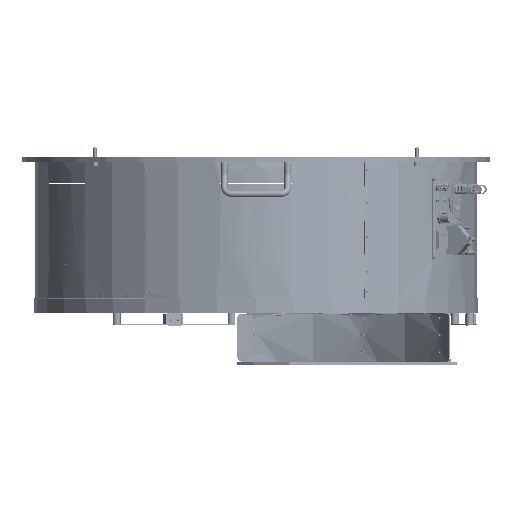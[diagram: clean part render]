
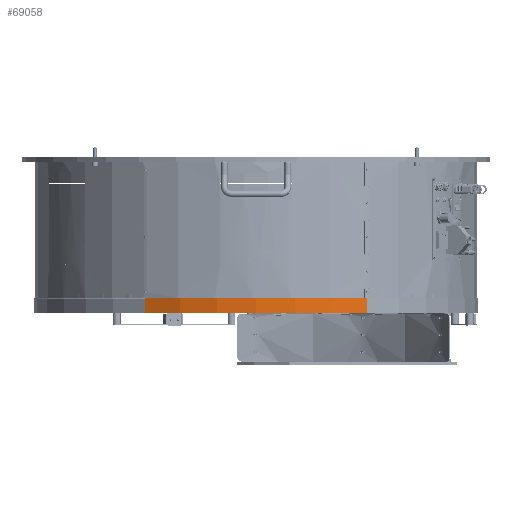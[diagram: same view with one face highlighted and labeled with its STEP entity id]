
A CAD part, front view. The second image highlights one B-rep face of the part: STEP entity #69058.
In plain terms, the highlighted cylindrical face has radius 422 mm (diameter 844 mm), a partial arc.
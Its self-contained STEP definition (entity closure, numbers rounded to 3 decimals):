
#3084 = CARTESIAN_POINT ( 'NONE',  ( 0., 0., 29. ) ) ;
#30343 = DIRECTION ( 'NONE',  ( 0., 0., 1. ) ) ;
#52357 = CARTESIAN_POINT ( 'NONE',  ( -422., 0., 28. ) ) ;
#69058 = ADVANCED_FACE ( 'NONE', ( #81543 ), #258463, .T. ) ;
#70432 = LINE ( 'NONE', #464868, #341210 ) ;
#81543 = FACE_OUTER_BOUND ( 'NONE', #379533, .T. ) ;
#84815 = CARTESIAN_POINT ( 'NONE',  ( -422., 0., 0. ) ) ;
#108032 = CIRCLE ( 'NONE', #163488, 422. ) ;
#126026 = DIRECTION ( 'NONE',  ( 0., 0., -1. ) ) ;
#136465 = DIRECTION ( 'NONE',  ( 0., 0., -1. ) ) ;
#158656 = AXIS2_PLACEMENT_3D ( 'NONE', #204372, #30343, #247934 ) ;
#163488 = AXIS2_PLACEMENT_3D ( 'NONE', #384219, #126026, #517600 ) ;
#204372 = CARTESIAN_POINT ( 'NONE',  ( 0., 0., 0. ) ) ;
#245097 = EDGE_CURVE ( 'NONE', #446553, #297885, #297178, .T. ) ;
#247934 = DIRECTION ( 'NONE',  ( 1., 0., 0. ) ) ;
#253124 = EDGE_CURVE ( 'NONE', #435020, #325055, #70432, .T. ) ;
#258463 = CYLINDRICAL_SURFACE ( 'NONE', #500543, 422. ) ;
#262202 = DIRECTION ( 'NONE',  ( 0., 0., -1. ) ) ;
#282129 = VECTOR ( 'NONE', #262202, 1000. ) ;
#297178 = LINE ( 'NONE', #569664, #282129 ) ;
#297885 = VERTEX_POINT ( 'NONE', #84815 ) ;
#322000 = DIRECTION ( 'NONE',  ( -1., 0., 0. ) ) ;
#325055 = VERTEX_POINT ( 'NONE', #554878 ) ;
#332387 = ORIENTED_EDGE ( 'NONE', *, *, #245097, .T. ) ;
#341210 = VECTOR ( 'NONE', #549041, 1000. ) ;
#345740 = ORIENTED_EDGE ( 'NONE', *, *, #253124, .F. ) ;
#354849 = CARTESIAN_POINT ( 'NONE',  ( -211., -365.463, 28. ) ) ;
#365240 = ORIENTED_EDGE ( 'NONE', *, *, #500356, .T. ) ;
#379533 = EDGE_LOOP ( 'NONE', ( #345740, #419181, #332387, #365240 ) ) ;
#384219 = CARTESIAN_POINT ( 'NONE',  ( 0., 0., 28. ) ) ;
#419181 = ORIENTED_EDGE ( 'NONE', *, *, #511636, .T. ) ;
#435020 = VERTEX_POINT ( 'NONE', #354849 ) ;
#446553 = VERTEX_POINT ( 'NONE', #52357 ) ;
#464868 = CARTESIAN_POINT ( 'NONE',  ( -211., -365.463, 29. ) ) ;
#500356 = EDGE_CURVE ( 'NONE', #297885, #325055, #566041, .T. ) ;
#500543 = AXIS2_PLACEMENT_3D ( 'NONE', #3084, #136465, #322000 ) ;
#511636 = EDGE_CURVE ( 'NONE', #435020, #446553, #108032, .T. ) ;
#517600 = DIRECTION ( 'NONE',  ( 1., 0., 0. ) ) ;
#549041 = DIRECTION ( 'NONE',  ( 0., 0., -1. ) ) ;
#554878 = CARTESIAN_POINT ( 'NONE',  ( -211., -365.463, 0. ) ) ;
#566041 = CIRCLE ( 'NONE', #158656, 422. ) ;
#569664 = CARTESIAN_POINT ( 'NONE',  ( -422., 0., 29. ) ) ;
